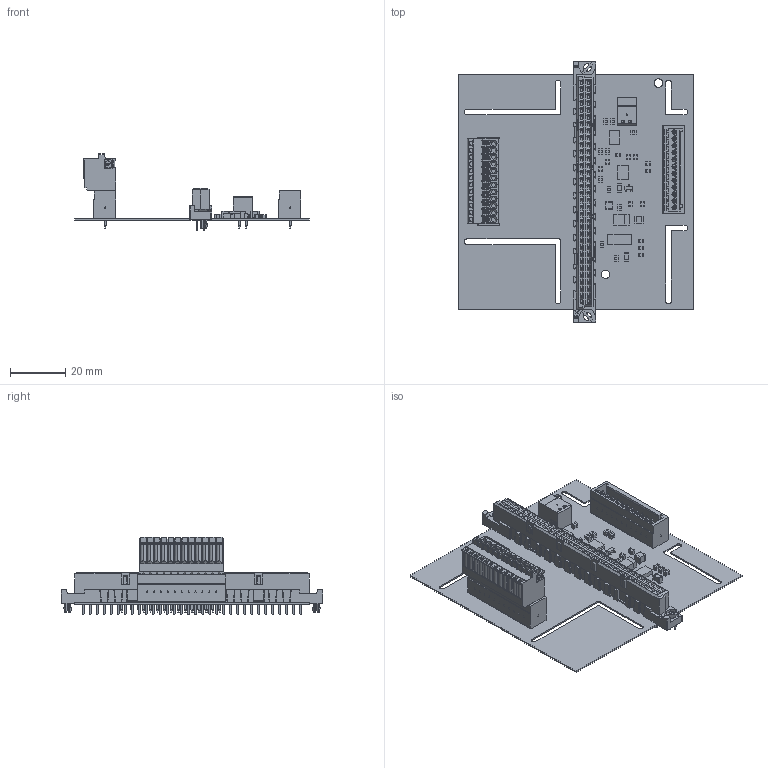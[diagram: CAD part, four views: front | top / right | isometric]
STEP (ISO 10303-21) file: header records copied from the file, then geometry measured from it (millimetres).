
FILE_DESCRIPTION(('Open CASCADE Model'),'2;1');
FILE_NAME('Open CASCADE Shape Model','2016-12-22T14:36:15',('Author'),( 'Open CASCADE'),'Open CASCADE STEP processor 6.8','Open CASCADE 6.8' ,'Unknown');
FILE_SCHEMA(('AUTOMOTIVE_DESIGN { 1 0 10303 214 1 1 1 1 }'));
Length unit declared in the file: millimetre
Products named in the file (74): PCB; Board; X4; 29016; mc_0.5-2-g-2.5; X3; 1881655; mcv_0.5-12-g-2.5; X2; X1; 284880_Erni; V2; sot23-3; V1; 1257852664; Extruded; R14; 1516846632; 1516846768; R13; R12; 1516846360; 1516846496; R11; R9; R8; R5; R4; R3; R1; N2; C8; 1516845000; 1516845136; C7; C5; C2; C1; V3; 1516837928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
Assembly tree (143 placements, depth 4):
  PCB
    Board
    X4
      29016
        mc_0.5-2-g-2.5
    X3
      1881655
        mcv_0.5-12-g-2.5
    X2
      1881655
        mcv_0.5-12-g-2.5
    X1
      284880_Erni
    V2
      sot23-3
    V1
      1257852664
        Extruded
    R14
      1516846632
        Extruded
      1516846768  x2
        Extruded
    R13
      1516846632
        Extruded
      1516846768  x2
        Extruded
    R12
      1516846360
        Extruded
      1516846496  x2
        Extruded
    R11
      1516846360
        Extruded
      1516846496  x2
        Extruded
    R9
      1516846360
        Extruded
      1516846496  x2
        Extruded
    R8
      1516846360
        Extruded
      1516846496  x2
        Extruded
    R5
      1516846360
        Extruded
      1516846496  x2
        Extruded
    R4
      1516846360
        Extruded
      1516846496  x2
        Extruded
    R3
      1516846360
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Bounding box: 85 x 94.85 x 28.04 mm (x, y, z)
Volume: 18569.6 mm3; surface area: 28651.7 mm2
Topology: 90 solids, 90 shells, 4625 faces, 11974 edges, 7847 vertices
Faces by surface type: plane 3385, cylinder 1184, cone 48, sphere 8
Full cylindrical faces by diameter (mm): 1.016 x64, 1.194 x24, 1.219 x2, 3.099 x2
Entity records: 356625 total; most frequent: CARTESIAN_POINT 159315, DIRECTION 31313, ORIENTED_EDGE 19148, PCURVE 19148, DEFINITIONAL_REPRESENTATION 19148, LINE 18438, VECTOR 18438, EDGE_CURVE 9574
